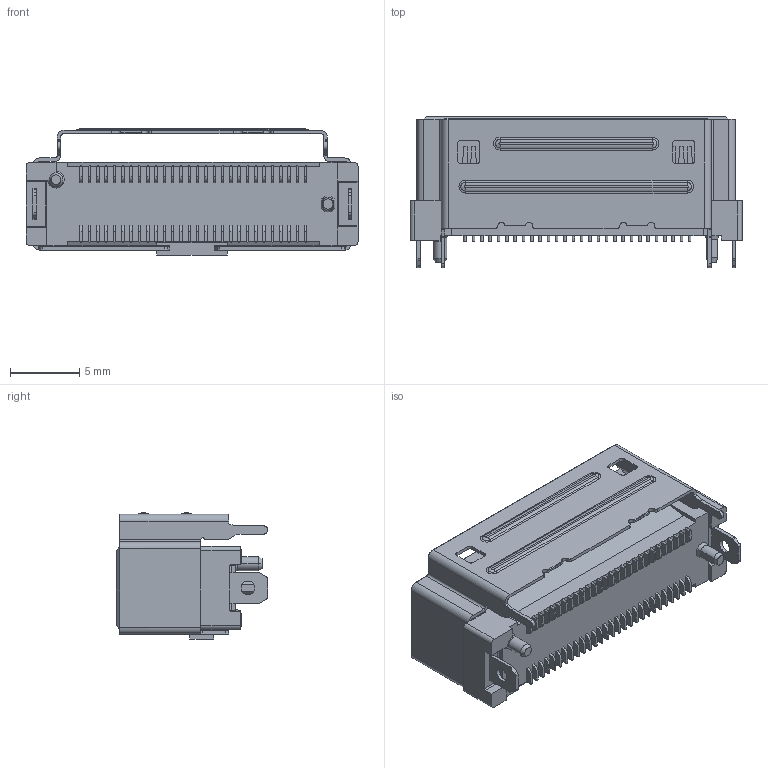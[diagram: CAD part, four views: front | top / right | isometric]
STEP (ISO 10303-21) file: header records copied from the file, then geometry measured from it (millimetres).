
FILE_DESCRIPTION((''),'2;1');
FILE_NAME('PRT0001','2026-07-10T20:01:28',('39001713'),(''),'CREO PARAMETRIC BY PTC INC, 2022244','CREO PARAMETRIC BY PTC INC, 2022244','');
FILE_SCHEMA(('CONFIG_CONTROL_DESIGN'));
Length unit declared in the file: millimetre
Products named in the file (1): PRT0001
Bounding box: 23.95 x 10.92 x 9.12 mm (x, y, z)
Volume: 983.9 mm3; surface area: 2546.5 mm2
Topology: 1 solids, 1 shells, 1829 faces, 4835 edges, 3075 vertices
Faces by surface type: plane 1284, cylinder 454, sphere 52, cone 23, bspline 12, torus 4
Entity records: 56051 total; most frequent: CARTESIAN_POINT 10211, ORIENTED_EDGE 9566, DIRECTION 9448, EDGE_CURVE 4783, VECTOR 3658, LINE 3658, VERTEX_POINT 3075, AXIS2_PLACEMENT_3D 2895
